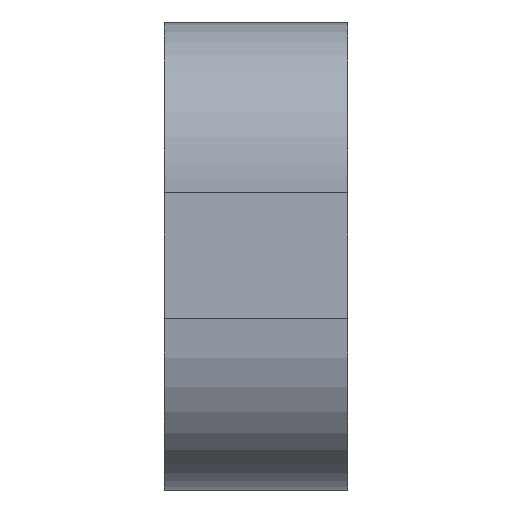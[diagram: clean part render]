
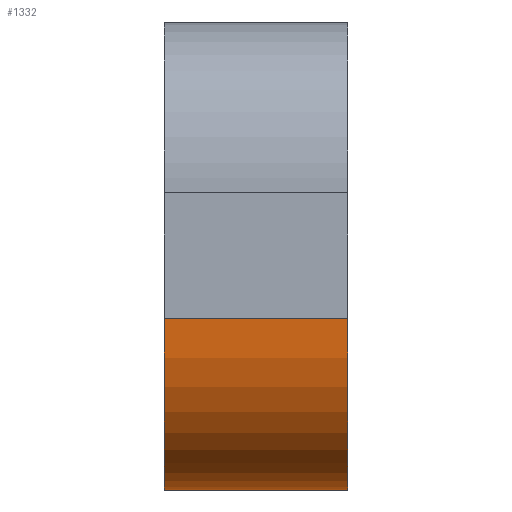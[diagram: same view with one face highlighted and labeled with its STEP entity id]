
A CAD part, left-side view. The second image highlights one B-rep face of the part: STEP entity #1332.
In plain terms, the highlighted free-form (B-spline) face has degree [2, 1] with [5, 2] control points.
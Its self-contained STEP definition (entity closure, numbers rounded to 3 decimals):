
#27=B_SPLINE_CURVE_WITH_KNOTS('',2,(#2020,#2021,#2022,#2023,#2024),
 .UNSPECIFIED.,.F.,.F.,(3,1,1,3),(0.,1.,2.,3.),.UNSPECIFIED.);
#28=B_SPLINE_CURVE_WITH_KNOTS('',2,(#2026,#2027,#2028,#2029,#2030),
 .UNSPECIFIED.,.F.,.F.,(3,1,1,3),(0.,1.,2.,3.),.UNSPECIFIED.);
#53=B_SPLINE_SURFACE_WITH_KNOTS('',2,1,((#2009,#2010),(#2011,#2012),(#2013,
#2014),(#2015,#2016),(#2017,#2018)),.UNSPECIFIED.,.F.,.F.,.F.,(3,1,1,3),
(2,2),(0.,1.,2.,3.),(0.,0.2),.UNSPECIFIED.);
#105=FACE_OUTER_BOUND('',#175,.T.);
#175=EDGE_LOOP('',(#986,#987,#988,#989));
#297=LINE('',#2008,#445);
#298=LINE('',#2031,#446);
#445=VECTOR('',#1594,10.);
#446=VECTOR('',#1595,10.);
#572=VERTEX_POINT('',#1996);
#573=VERTEX_POINT('',#2002);
#574=VERTEX_POINT('',#2019);
#575=VERTEX_POINT('',#2025);
#725=EDGE_CURVE('',#572,#573,#297,.T.);
#726=EDGE_CURVE('',#574,#572,#27,.T.);
#727=EDGE_CURVE('',#575,#573,#28,.T.);
#728=EDGE_CURVE('',#574,#575,#298,.T.);
#986=ORIENTED_EDGE('',*,*,#726,.T.);
#987=ORIENTED_EDGE('',*,*,#725,.T.);
#988=ORIENTED_EDGE('',*,*,#727,.F.);
#989=ORIENTED_EDGE('',*,*,#728,.F.);
#1332=ADVANCED_FACE('',(#105),#53,.T.);
#1594=DIRECTION('',(0.,-1.,0.));
#1595=DIRECTION('',(0.,-1.,0.));
#1996=CARTESIAN_POINT('',(-9.196,7.5,-2.347));
#2002=CARTESIAN_POINT('',(-9.196,5.5,-2.347));
#2008=CARTESIAN_POINT('',(-9.196,7.5,-2.347));
#2009=CARTESIAN_POINT('Ctrl Pts',(-10.934,7.5,-0.477));
#2010=CARTESIAN_POINT('Ctrl Pts',(-10.934,5.5,-0.477));
#2011=CARTESIAN_POINT('Ctrl Pts',(-10.934,7.5,-1.034));
#2012=CARTESIAN_POINT('Ctrl Pts',(-10.934,5.5,-1.034));
#2013=CARTESIAN_POINT('Ctrl Pts',(-10.5,7.5,-1.881));
#2014=CARTESIAN_POINT('Ctrl Pts',(-10.5,5.5,-1.881));
#2015=CARTESIAN_POINT('Ctrl Pts',(-9.712,7.5,-2.347));
#2016=CARTESIAN_POINT('Ctrl Pts',(-9.712,5.5,-2.347));
#2017=CARTESIAN_POINT('Ctrl Pts',(-9.196,7.5,-2.347));
#2018=CARTESIAN_POINT('Ctrl Pts',(-9.196,5.5,-2.347));
#2019=CARTESIAN_POINT('',(-10.934,7.5,-0.477));
#2020=CARTESIAN_POINT('Ctrl Pts',(-10.934,7.5,-0.477));
#2021=CARTESIAN_POINT('Ctrl Pts',(-10.934,7.5,-1.034));
#2022=CARTESIAN_POINT('Ctrl Pts',(-10.5,7.5,-1.881));
#2023=CARTESIAN_POINT('Ctrl Pts',(-9.712,7.5,-2.347));
#2024=CARTESIAN_POINT('Ctrl Pts',(-9.196,7.5,-2.347));
#2025=CARTESIAN_POINT('',(-10.934,5.5,-0.477));
#2026=CARTESIAN_POINT('Ctrl Pts',(-10.934,5.5,-0.477));
#2027=CARTESIAN_POINT('Ctrl Pts',(-10.934,5.5,-1.034));
#2028=CARTESIAN_POINT('Ctrl Pts',(-10.5,5.5,-1.881));
#2029=CARTESIAN_POINT('Ctrl Pts',(-9.712,5.5,-2.347));
#2030=CARTESIAN_POINT('Ctrl Pts',(-9.196,5.5,-2.347));
#2031=CARTESIAN_POINT('',(-10.934,7.5,-0.477));
